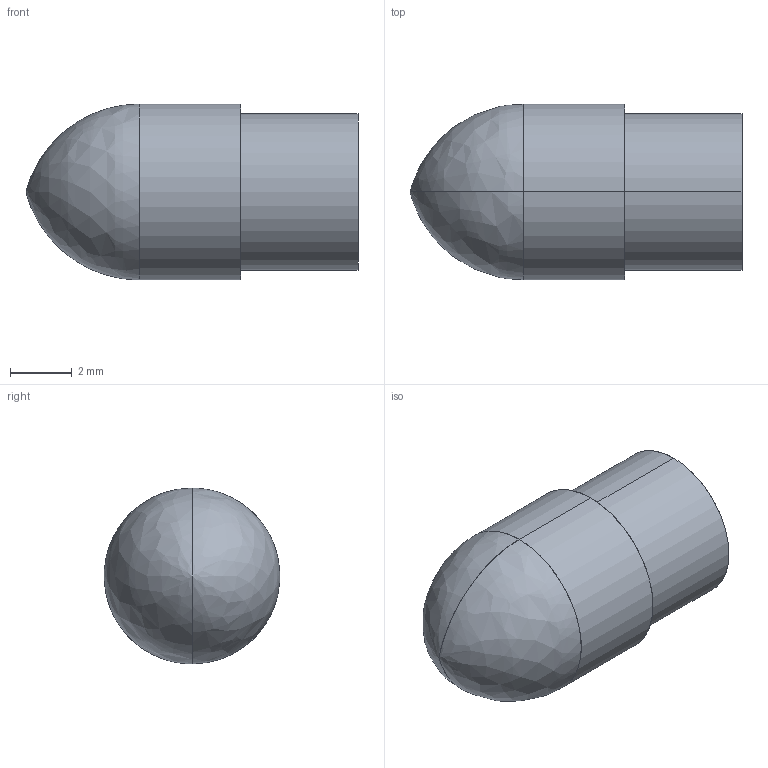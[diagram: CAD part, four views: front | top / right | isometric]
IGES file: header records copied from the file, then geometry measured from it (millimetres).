
Start section: SolidWorks IGES file using analytic representation for surfaces
Global section: file name: C:\Users\Shane\Desktop\22LR-Bullet.IGS; native system: SolidWorks 2011; preprocessor: SolidWorks 2011; author: Shane; date: 120428.213625; units: inch
Bounding box: 10.79 x 5.71 x 5.71 mm (x, y, z)
Surface area: 203.9 mm2 (no closed solid volume)
Topology: 0 solids, 0 shells, 8 faces, 120 edges, 118 vertices
Faces by surface type: bspline 4, revolution 4
